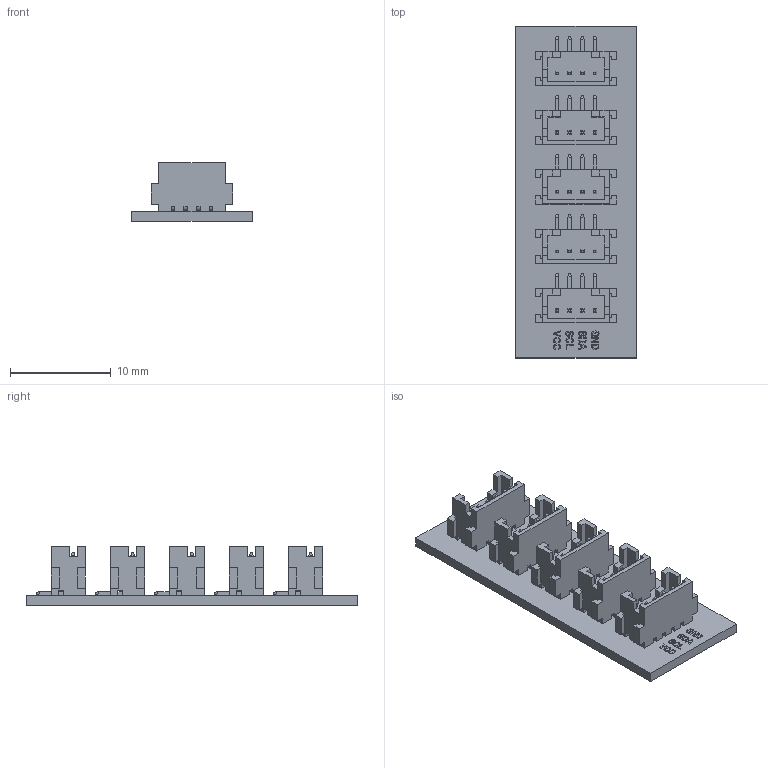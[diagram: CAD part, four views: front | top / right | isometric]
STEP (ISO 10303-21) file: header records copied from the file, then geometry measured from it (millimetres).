
FILE_DESCRIPTION(('CATIA V5 STEP Exchange'),'2;1');
FILE_NAME('C:\Users\Admin\Desktop\I2C SPLITTER.stp','2018-09-02T22:45:58+00:00',('none'),('none'),'CATIA Version 5 Release 20 GA (IN-10)','CATIA V5 STEP AP203','none');
FILE_SCHEMA(('CONFIG_CONTROL_DESIGN'));
Length unit declared in the file: millimetre
Products named in the file (1): I2C SPLITTER
Bounding box: 12 x 33 x 5.8 mm (x, y, z)
Volume: 713.8 mm3; surface area: 2145.1 mm2
Topology: 26 solids, 26 shells, 1195 faces, 3464 edges, 2316 vertices
Faces by surface type: plane 1155, cylinder 40
Entity records: 37750 total; most frequent: CARTESIAN_POINT 7172, ORIENTED_EDGE 6928, DIRECTION 5326, EDGE_CURVE 3464, VECTOR 3344, LINE 3344, VERTEX_POINT 2316, EDGE_LOOP 1230
